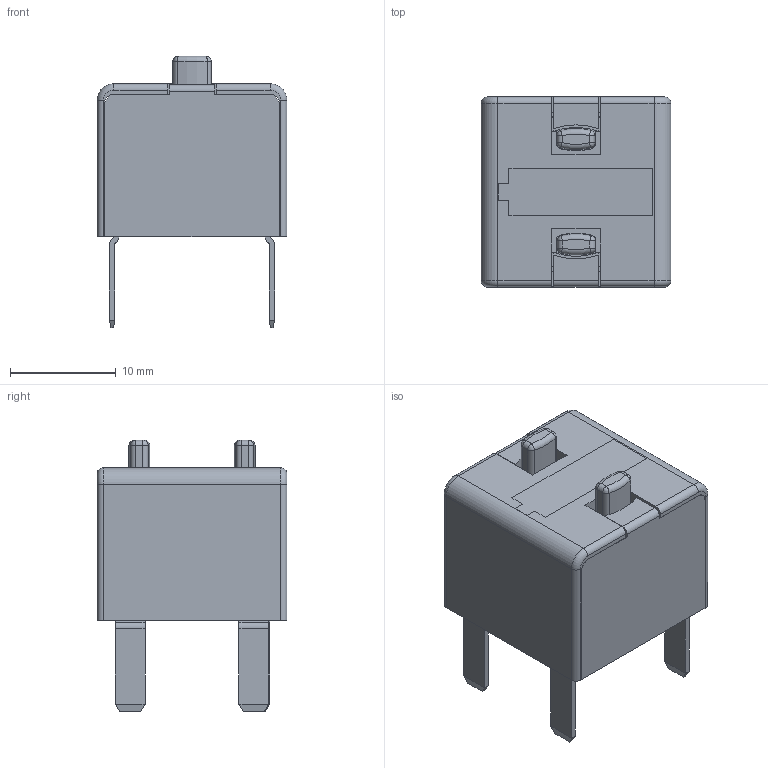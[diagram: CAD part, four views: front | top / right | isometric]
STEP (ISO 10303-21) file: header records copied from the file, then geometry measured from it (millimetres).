
FILE_DESCRIPTION((''),'2;1');
FILE_NAME('A0154B-D_SW0001','2015-12-23T',('snouilhan'),(''),'CREO PARAMETRIC BY PTC INC, 2014440','CREO PARAMETRIC BY PTC INC, 2014440','');
FILE_SCHEMA(('CONFIG_CONTROL_DESIGN'));
Length unit declared in the file: millimetre
Products named in the file (1): A0154B-D_SW0001
Bounding box: 18 x 18 x 25.71 mm (x, y, z)
Surface area: 4497.5 mm2 (no closed solid volume)
Topology: 0 solids, 17 shells, 488 faces, 1522 edges, 1013 vertices
Faces by surface type: plane 342, cylinder 122, sphere 16, torus 8
Entity records: 16611 total; most frequent: CARTESIAN_POINT 3183, DIRECTION 2752, ORIENTED_EDGE 2659, EDGE_CURVE 1506, VECTOR 1220, LINE 1220, VERTEX_POINT 1013, AXIS2_PLACEMENT_3D 766
